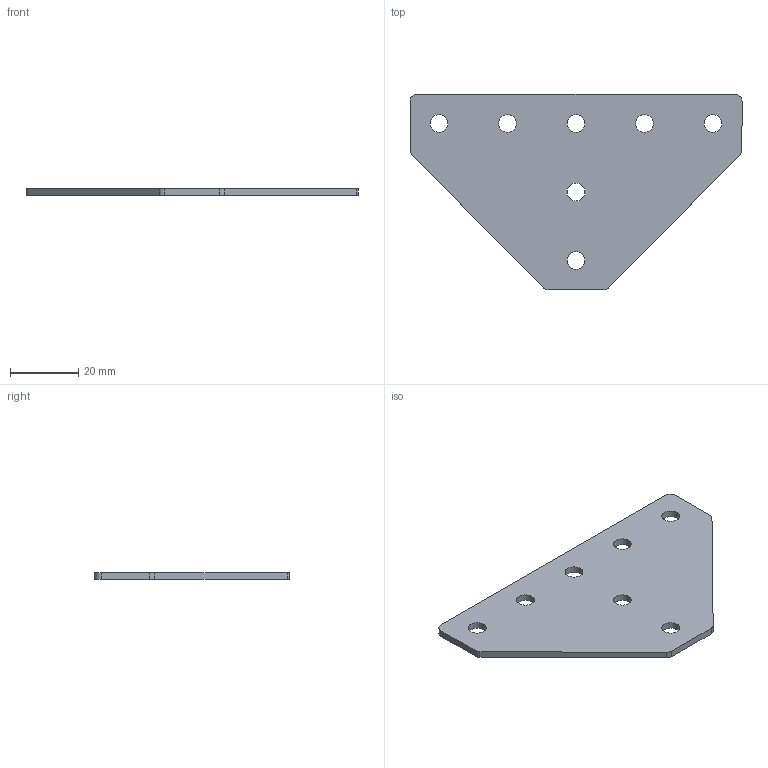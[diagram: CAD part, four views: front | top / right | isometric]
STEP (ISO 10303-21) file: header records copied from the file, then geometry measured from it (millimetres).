
FILE_DESCRIPTION (( 'STEP AP214' ), '1' );
FILE_NAME ('ﾒ-7-ﾓ-20.STEP', '2021-04-21T10:43:13', ( 'Home' ), ( '' ), 'SwSTEP 2.0', 'SolidWorks 2020', '' );
FILE_SCHEMA (( 'AUTOMOTIVE_DESIGN' ));
Length unit declared in the file: millimetre
Products named in the file (1): ﾒ-7-ﾓ-20
Bounding box: 97 x 57 x 2 mm (x, y, z)
Volume: 7598.8 mm3; surface area: 8346.3 mm2
Topology: 1 solids, 1 shells, 28 faces, 78 edges, 52 vertices
Faces by surface type: cylinder 20, plane 8
Entity records: 1292 total; most frequent: DIRECTION 176, CARTESIAN_POINT 159, ORIENTED_EDGE 156, EDGE_CURVE 78, AXIS2_PLACEMENT_3D 69, VERTEX_POINT 52, EDGE_LOOP 42, CIRCLE 40
